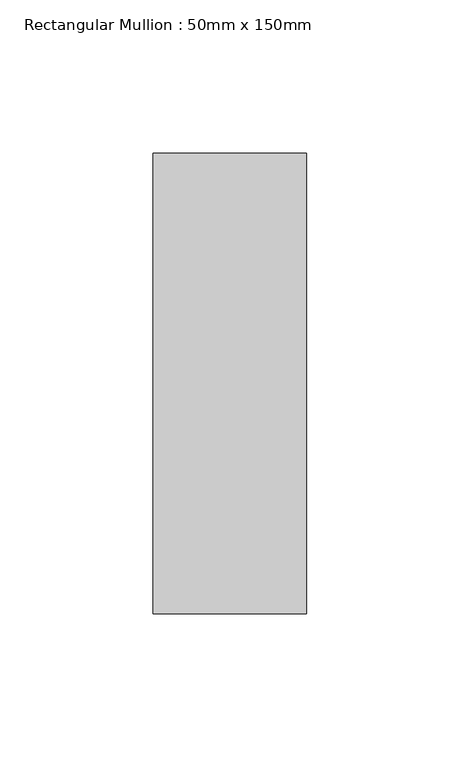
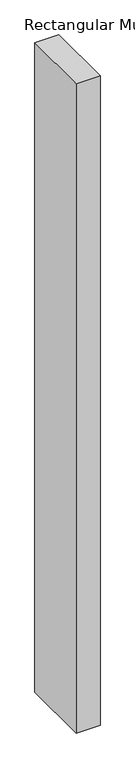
"""IFC4 building model written with IfcOpenShell, lengths in millimetres: member geometry, Rectangular Mullion : 50mm x 150mm."""

from ifc_helpers import new_model, si_unit, frame, origin, place, context, project, spatial, polyline, outline, extrude, source, transform, mapped, element, save


def rectangular_mullion_50mm_x_150mm_1cdaa0f1(model_context):
    return source(origin(), model_context, "Body", "SweptSolid", [
        extrude(outline(polyline([(25.0, 75.0), (25.0, -75.0), (-25.0, -75.0), (-25.0, 75.0), (25.0, 75.0)])), frame((0.0, 0.0, -1440.0), z_axis=(0.0, 0.0, 1.0), x_axis=(1.0, 0.0, 0.0)), (0.0, 0.0, 1.0), 1440.0),
    ])


if __name__ == "__main__":
    model = new_model("IFC4")
    model_context = context("Model", 3, world=origin())
    ifc_project = project(units=[si_unit("LENGTHUNIT", "METRE", prefix="MILLI")], contexts=[model_context])
    site = spatial("IfcSite", under=ifc_project)
    building = spatial("IfcBuilding", under=site)
    placement = place(None, origin())
    rectangular_mullion_50mm_x_150mm_shape = rectangular_mullion_50mm_x_150mm_1cdaa0f1(model_context)
    element("IfcMember", 1, ObjectType="Rectangular Mullion : 50mm x 150mm", at=placement, inside=building, context=model_context, shape_type="MappedRepresentation", body=[
        mapped(rectangular_mullion_50mm_x_150mm_shape, transform((0.0, 0.0, 0.0), x_axis=(1.0, 0.0, 0.0), y_axis=(0.0, 1.0, 0.0), z_axis=(0.0, 0.0, 1.0))),
    ])
    save(model, "model.ifc")
